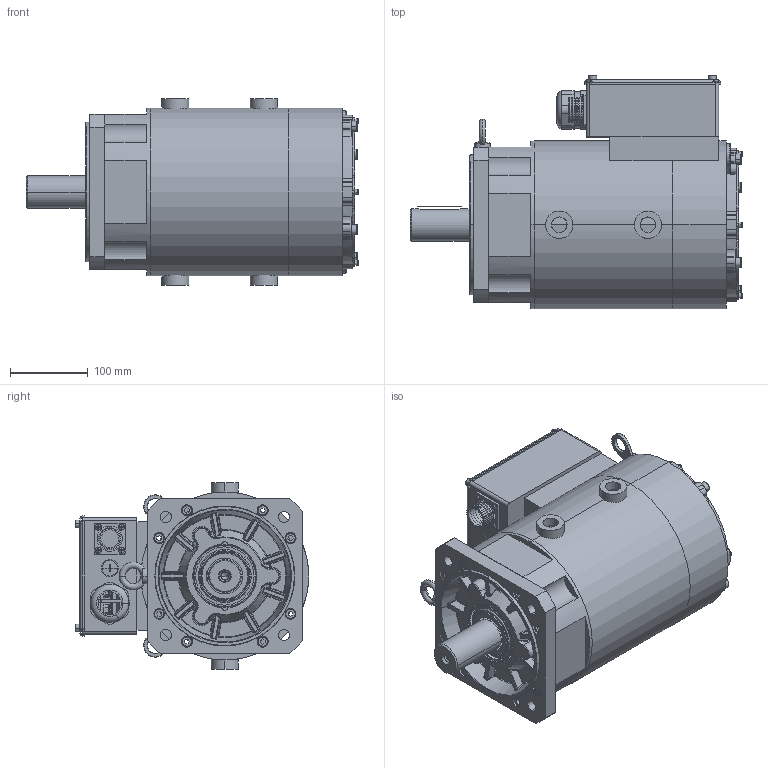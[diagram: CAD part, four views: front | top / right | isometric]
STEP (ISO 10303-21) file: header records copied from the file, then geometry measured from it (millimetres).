
FILE_DESCRIPTION((''),'2;1');
FILE_NAME('11101-01778_SW0001','2026-02-12T16:50:02',('admin'),(''),'CREO PARAMETRIC BY PTC INC, 2019080','CREO PARAMETRIC BY PTC INC, 2019080','');
FILE_SCHEMA(('CONFIG_CONTROL_DESIGN'));
Length unit declared in the file: millimetre
Products named in the file (1): 11101-01778_SW0001
Bounding box: 427 x 300.5 x 240 mm (x, y, z)
Surface area: 856396.4 mm2 (no closed solid volume)
Topology: 0 solids, 117 shells, 800 faces, 3200 edges, 2447 vertices
Faces by surface type: plane 317, cylinder 308, cone 84, torus 67, bspline 14, sphere 10
Entity records: 36723 total; most frequent: CARTESIAN_POINT 10230, DIRECTION 5810, ORIENTED_EDGE 4535, EDGE_CURVE 3198, VERTEX_POINT 2447, AXIS2_PLACEMENT_3D 2153, VECTOR 1504, LINE 1504
